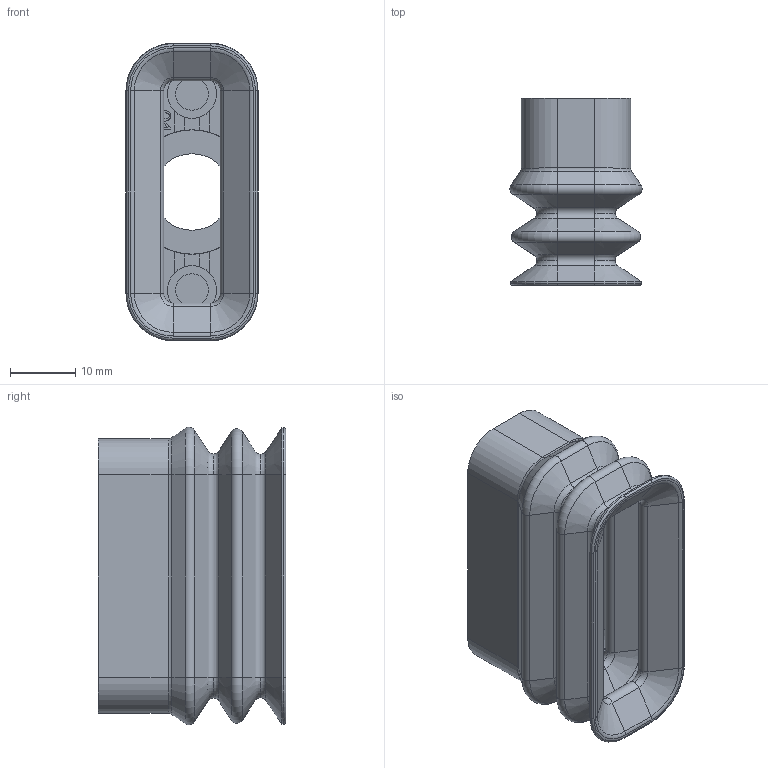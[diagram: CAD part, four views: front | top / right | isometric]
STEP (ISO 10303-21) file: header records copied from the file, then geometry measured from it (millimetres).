
FILE_DESCRIPTION (( 'STEP AP214' ), '1' );
FILE_NAME ('25RB.20X45.05.STEP', '2026-02-12T12:21:48', ( '' ), ( '' ), 'SwSTEP 2.0', 'SolidWorks 2025', '' );
FILE_SCHEMA (( 'AUTOMOTIVE_DESIGN' ));
Length unit declared in the file: inch
Products named in the file (4): OV2B2045-02-G2F (1).STEP.STEP; 25RB.20X45.05-G14F.STEP; 25RB.20X45.05; OV2045-02-25-G2F.STEP.STEP
Assembly tree (3 placements, depth 4):
  25RB.20X45.05
    25RB.20X45.05-G14F.STEP
      OV2B2045-02-G2F (1).STEP.STEP
        OV2045-02-25-G2F.STEP.STEP
Bounding box: 20.19 x 28.65 x 45.49 mm (x, y, z)
Volume: 8450.1 mm3; surface area: 10636.5 mm2
Topology: 2 solids, 2 shells, 303 faces, 717 edges, 422 vertices
Faces by surface type: plane 91, cylinder 82, torus 66, cone 40, bspline 24
Entity records: 8950 total; most frequent: CARTESIAN_POINT 1873, DIRECTION 1524, ORIENTED_EDGE 1434, EDGE_CURVE 717, AXIS2_PLACEMENT_3D 609, VERTEX_POINT 422, CIRCLE 322, EDGE_LOOP 319
